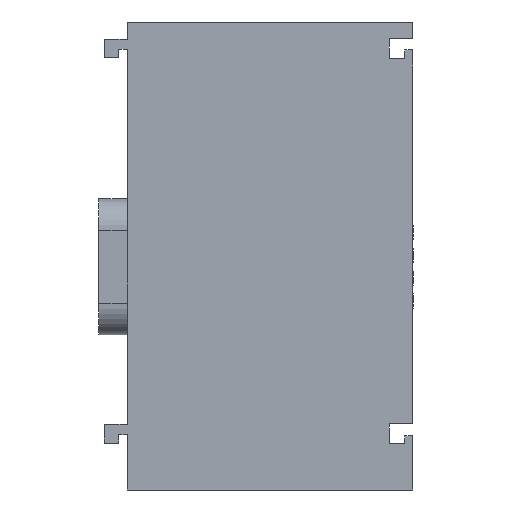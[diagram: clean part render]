
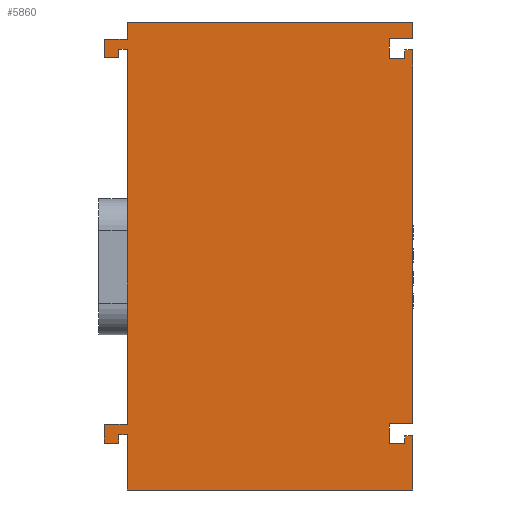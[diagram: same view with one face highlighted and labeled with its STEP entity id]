
A CAD part, front view. The second image highlights one B-rep face of the part: STEP entity #5860.
In plain terms, the highlighted planar face has unit normal (0, -1, 0).
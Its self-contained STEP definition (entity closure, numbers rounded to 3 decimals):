
#25=DIRECTION('',(-1.,0.,0.));
#26=VECTOR('',#25,1.4);
#27=CARTESIAN_POINT('',(25.,0.,-31.5));
#28=LINE('',#27,#26);
#29=DIRECTION('',(0.,0.,-1.));
#30=VECTOR('',#29,9.5);
#31=CARTESIAN_POINT('',(25.,0.,-31.5));
#32=LINE('',#31,#30);
#33=DIRECTION('',(-1.,0.,0.));
#34=VECTOR('',#33,50.);
#35=CARTESIAN_POINT('',(25.,0.,-41.));
#36=LINE('',#35,#34);
#37=DIRECTION('',(0.,0.,1.));
#38=VECTOR('',#37,9.7);
#39=CARTESIAN_POINT('',(-25.,0.,-41.));
#40=LINE('',#39,#38);
#41=DIRECTION('',(1.,0.,0.));
#42=VECTOR('',#41,1.5);
#43=CARTESIAN_POINT('',(-26.5,0.,-31.3));
#44=LINE('',#43,#42);
#45=DIRECTION('',(0.,0.,1.));
#46=VECTOR('',#45,1.5);
#47=CARTESIAN_POINT('',(-26.5,0.,-32.8));
#48=LINE('',#47,#46);
#49=DIRECTION('',(1.,0.,0.));
#50=VECTOR('',#49,2.5);
#51=CARTESIAN_POINT('',(-29.,0.,-32.8));
#52=LINE('',#51,#50);
#53=DIRECTION('',(0.,0.,-1.));
#54=VECTOR('',#53,3.3);
#55=CARTESIAN_POINT('',(-29.,0.,-29.5));
#56=LINE('',#55,#54);
#57=DIRECTION('',(-1.,0.,0.));
#58=VECTOR('',#57,4.);
#59=CARTESIAN_POINT('',(-25.,0.,-29.5));
#60=LINE('',#59,#58);
#61=DIRECTION('',(0.,0.,1.));
#62=VECTOR('',#61,65.7);
#63=CARTESIAN_POINT('',(-25.,0.,-29.5));
#64=LINE('',#63,#62);
#65=DIRECTION('',(1.,0.,0.));
#66=VECTOR('',#65,1.5);
#67=CARTESIAN_POINT('',(-26.5,0.,36.2));
#68=LINE('',#67,#66);
#69=DIRECTION('',(0.,0.,1.));
#70=VECTOR('',#69,1.5);
#71=CARTESIAN_POINT('',(-26.5,0.,34.7));
#72=LINE('',#71,#70);
#73=DIRECTION('',(1.,0.,0.));
#74=VECTOR('',#73,2.5);
#75=CARTESIAN_POINT('',(-29.,0.,34.7));
#76=LINE('',#75,#74);
#77=DIRECTION('',(0.,0.,-1.));
#78=VECTOR('',#77,3.3);
#79=CARTESIAN_POINT('',(-29.,0.,38.));
#80=LINE('',#79,#78);
#81=DIRECTION('',(-1.,0.,0.));
#82=VECTOR('',#81,4.);
#83=CARTESIAN_POINT('',(-25.,0.,38.));
#84=LINE('',#83,#82);
#85=DIRECTION('',(0.,0.,1.));
#86=VECTOR('',#85,3.);
#87=CARTESIAN_POINT('',(-25.,0.,38.));
#88=LINE('',#87,#86);
#89=DIRECTION('',(1.,0.,0.));
#90=VECTOR('',#89,50.);
#91=CARTESIAN_POINT('',(-25.,0.,41.));
#92=LINE('',#91,#90);
#93=DIRECTION('',(0.,0.,-1.));
#94=VECTOR('',#93,2.9);
#95=CARTESIAN_POINT('',(25.,0.,41.));
#96=LINE('',#95,#94);
#97=DIRECTION('',(-1.,0.,0.));
#98=VECTOR('',#97,4.1);
#99=CARTESIAN_POINT('',(25.,0.,38.1));
#100=LINE('',#99,#98);
#101=DIRECTION('',(0.,0.,1.));
#102=VECTOR('',#101,3.5);
#103=CARTESIAN_POINT('',(20.9,0.,34.6));
#104=LINE('',#103,#102);
#105=DIRECTION('',(-1.,0.,0.));
#106=VECTOR('',#105,2.7);
#107=CARTESIAN_POINT('',(23.6,0.,34.6));
#108=LINE('',#107,#106);
#109=DIRECTION('',(0.,0.,-1.));
#110=VECTOR('',#109,1.5);
#111=CARTESIAN_POINT('',(23.6,0.,36.1));
#112=LINE('',#111,#110);
#113=DIRECTION('',(-1.,0.,0.));
#114=VECTOR('',#113,1.4);
#115=CARTESIAN_POINT('',(25.,0.,36.1));
#116=LINE('',#115,#114);
#117=DIRECTION('',(0.,0.,-1.));
#118=VECTOR('',#117,65.5);
#119=CARTESIAN_POINT('',(25.,0.,36.1));
#120=LINE('',#119,#118);
#121=DIRECTION('',(-1.,0.,0.));
#122=VECTOR('',#121,4.1);
#123=CARTESIAN_POINT('',(25.,0.,-29.4));
#124=LINE('',#123,#122);
#125=DIRECTION('',(0.,0.,1.));
#126=VECTOR('',#125,3.5);
#127=CARTESIAN_POINT('',(20.9,0.,-32.9));
#128=LINE('',#127,#126);
#129=DIRECTION('',(-1.,0.,0.));
#130=VECTOR('',#129,2.7);
#131=CARTESIAN_POINT('',(23.6,0.,-32.9));
#132=LINE('',#131,#130);
#133=DIRECTION('',(0.,0.,-1.));
#134=VECTOR('',#133,1.4);
#135=CARTESIAN_POINT('',(23.6,0.,-31.5));
#136=LINE('',#135,#134);
#4449=CARTESIAN_POINT('',(25.,0.,-41.));
#4450=CARTESIAN_POINT('',(-25.,0.,-41.));
#4451=VERTEX_POINT('',#4449);
#4452=VERTEX_POINT('',#4450);
#4453=CARTESIAN_POINT('',(-25.,0.,41.));
#4454=CARTESIAN_POINT('',(25.,0.,41.));
#4455=VERTEX_POINT('',#4453);
#4456=VERTEX_POINT('',#4454);
#4533=CARTESIAN_POINT('',(-26.5,0.,34.7));
#4534=CARTESIAN_POINT('',(-26.5,0.,36.2));
#4535=VERTEX_POINT('',#4533);
#4536=VERTEX_POINT('',#4534);
#4537=CARTESIAN_POINT('',(-29.,0.,34.7));
#4538=VERTEX_POINT('',#4537);
#4539=CARTESIAN_POINT('',(-29.,0.,38.));
#4540=VERTEX_POINT('',#4539);
#4541=CARTESIAN_POINT('',(-26.5,0.,-32.8));
#4542=CARTESIAN_POINT('',(-26.5,0.,-31.3));
#4543=VERTEX_POINT('',#4541);
#4544=VERTEX_POINT('',#4542);
#4545=CARTESIAN_POINT('',(-29.,0.,-32.8));
#4546=VERTEX_POINT('',#4545);
#4547=CARTESIAN_POINT('',(-29.,0.,-29.5));
#4548=VERTEX_POINT('',#4547);
#4566=CARTESIAN_POINT('',(-25.,0.,38.));
#4568=VERTEX_POINT('',#4566);
#4570=CARTESIAN_POINT('',(-25.,0.,36.2));
#4572=VERTEX_POINT('',#4570);
#4574=CARTESIAN_POINT('',(-25.,0.,-29.5));
#4576=VERTEX_POINT('',#4574);
#4578=CARTESIAN_POINT('',(-25.,0.,-31.3));
#4580=VERTEX_POINT('',#4578);
#4597=CARTESIAN_POINT('',(25.,0.,-31.5));
#4598=CARTESIAN_POINT('',(23.6,0.,-31.5));
#4599=VERTEX_POINT('',#4597);
#4600=VERTEX_POINT('',#4598);
#4601=CARTESIAN_POINT('',(23.6,0.,-32.9));
#4602=VERTEX_POINT('',#4601);
#4603=CARTESIAN_POINT('',(20.9,0.,-32.9));
#4604=VERTEX_POINT('',#4603);
#4605=CARTESIAN_POINT('',(20.9,0.,-29.4));
#4606=VERTEX_POINT('',#4605);
#4607=CARTESIAN_POINT('',(25.,0.,-29.4));
#4608=VERTEX_POINT('',#4607);
#4609=CARTESIAN_POINT('',(25.,0.,36.1));
#4610=CARTESIAN_POINT('',(23.6,0.,36.1));
#4611=VERTEX_POINT('',#4609);
#4612=VERTEX_POINT('',#4610);
#4613=CARTESIAN_POINT('',(23.6,0.,34.6));
#4614=VERTEX_POINT('',#4613);
#4615=CARTESIAN_POINT('',(20.9,0.,34.6));
#4616=VERTEX_POINT('',#4615);
#4617=CARTESIAN_POINT('',(20.9,0.,38.1));
#4618=VERTEX_POINT('',#4617);
#4619=CARTESIAN_POINT('',(25.,0.,38.1));
#4620=VERTEX_POINT('',#4619);
#5797=CARTESIAN_POINT('',(0.,0.,0.));
#5798=DIRECTION('',(0.,1.,0.));
#5799=DIRECTION('',(1.,0.,0.));
#5800=AXIS2_PLACEMENT_3D('',#5797,#5798,#5799);
#5801=PLANE('',#5800);
#5803=ORIENTED_EDGE('',*,*,#5802,.F.);
#5805=ORIENTED_EDGE('',*,*,#5804,.T.);
#5807=ORIENTED_EDGE('',*,*,#5806,.T.);
#5809=ORIENTED_EDGE('',*,*,#5808,.T.);
#5811=ORIENTED_EDGE('',*,*,#5810,.F.);
#5813=ORIENTED_EDGE('',*,*,#5812,.F.);
#5815=ORIENTED_EDGE('',*,*,#5814,.F.);
#5817=ORIENTED_EDGE('',*,*,#5816,.F.);
#5819=ORIENTED_EDGE('',*,*,#5818,.F.);
#5821=ORIENTED_EDGE('',*,*,#5820,.T.);
#5823=ORIENTED_EDGE('',*,*,#5822,.F.);
#5825=ORIENTED_EDGE('',*,*,#5824,.F.);
#5827=ORIENTED_EDGE('',*,*,#5826,.F.);
#5829=ORIENTED_EDGE('',*,*,#5828,.F.);
#5831=ORIENTED_EDGE('',*,*,#5830,.F.);
#5833=ORIENTED_EDGE('',*,*,#5832,.T.);
#5835=ORIENTED_EDGE('',*,*,#5834,.T.);
#5837=ORIENTED_EDGE('',*,*,#5836,.T.);
#5839=ORIENTED_EDGE('',*,*,#5838,.T.);
#5841=ORIENTED_EDGE('',*,*,#5840,.F.);
#5843=ORIENTED_EDGE('',*,*,#5842,.F.);
#5845=ORIENTED_EDGE('',*,*,#5844,.F.);
#5847=ORIENTED_EDGE('',*,*,#5846,.F.);
#5849=ORIENTED_EDGE('',*,*,#5848,.T.);
#5851=ORIENTED_EDGE('',*,*,#5850,.T.);
#5853=ORIENTED_EDGE('',*,*,#5852,.F.);
#5855=ORIENTED_EDGE('',*,*,#5854,.F.);
#5857=ORIENTED_EDGE('',*,*,#5856,.F.);
#5858=EDGE_LOOP('',(#5803,#5805,#5807,#5809,#5811,#5813,#5815,#5817,#5819,#5821,
#5823,#5825,#5827,#5829,#5831,#5833,#5835,#5837,#5839,#5841,#5843,#5845,#5847,
#5849,#5851,#5853,#5855,#5857));
#5859=FACE_OUTER_BOUND('',#5858,.F.);
#5802=EDGE_CURVE('',#4599,#4600,#28,.T.);
#5804=EDGE_CURVE('',#4599,#4451,#32,.T.);
#5806=EDGE_CURVE('',#4451,#4452,#36,.T.);
#5808=EDGE_CURVE('',#4452,#4580,#40,.T.);
#5810=EDGE_CURVE('',#4544,#4580,#44,.T.);
#5812=EDGE_CURVE('',#4543,#4544,#48,.T.);
#5814=EDGE_CURVE('',#4546,#4543,#52,.T.);
#5816=EDGE_CURVE('',#4548,#4546,#56,.T.);
#5818=EDGE_CURVE('',#4576,#4548,#60,.T.);
#5820=EDGE_CURVE('',#4576,#4572,#64,.T.);
#5822=EDGE_CURVE('',#4536,#4572,#68,.T.);
#5824=EDGE_CURVE('',#4535,#4536,#72,.T.);
#5826=EDGE_CURVE('',#4538,#4535,#76,.T.);
#5828=EDGE_CURVE('',#4540,#4538,#80,.T.);
#5830=EDGE_CURVE('',#4568,#4540,#84,.T.);
#5832=EDGE_CURVE('',#4568,#4455,#88,.T.);
#5834=EDGE_CURVE('',#4455,#4456,#92,.T.);
#5836=EDGE_CURVE('',#4456,#4620,#96,.T.);
#5838=EDGE_CURVE('',#4620,#4618,#100,.T.);
#5840=EDGE_CURVE('',#4616,#4618,#104,.T.);
#5842=EDGE_CURVE('',#4614,#4616,#108,.T.);
#5844=EDGE_CURVE('',#4612,#4614,#112,.T.);
#5846=EDGE_CURVE('',#4611,#4612,#116,.T.);
#5848=EDGE_CURVE('',#4611,#4608,#120,.T.);
#5850=EDGE_CURVE('',#4608,#4606,#124,.T.);
#5852=EDGE_CURVE('',#4604,#4606,#128,.T.);
#5854=EDGE_CURVE('',#4602,#4604,#132,.T.);
#5856=EDGE_CURVE('',#4600,#4602,#136,.T.);
#5860=ADVANCED_FACE('',(#5859),#5801,.F.);
